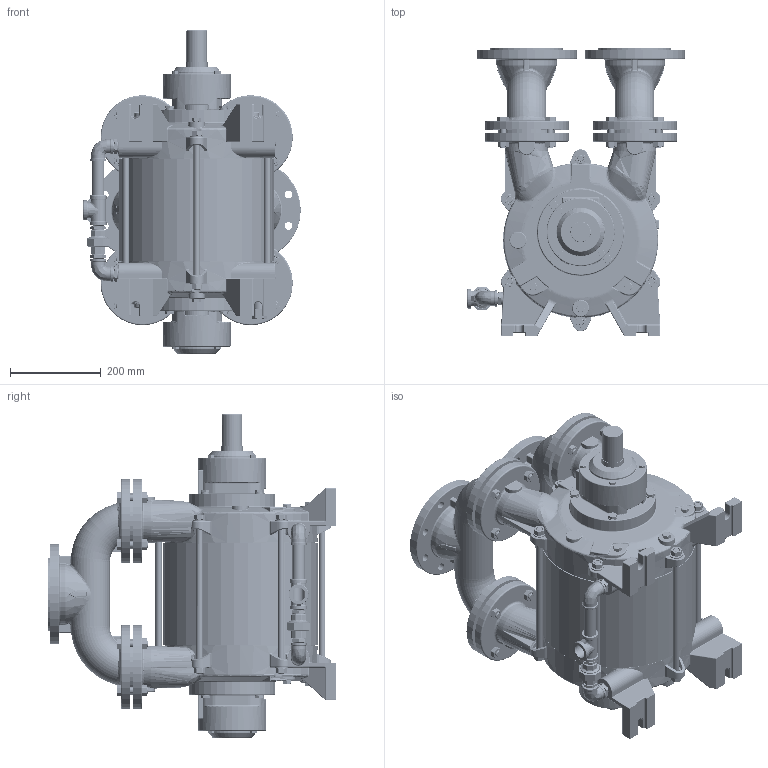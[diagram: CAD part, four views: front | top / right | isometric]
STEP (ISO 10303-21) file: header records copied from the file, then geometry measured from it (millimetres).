
FILE_DESCRIPTION (( 'STEP AP214' ), '1' );
FILE_NAME ('GMVT 275-220 MONTAJ.STEP', '2024-05-08T13:16:47', ( '' ), ( '' ), 'SwSTEP 2.0', 'SolidWorks 2024', '' );
FILE_SCHEMA (( 'AUTOMOTIVE_DESIGN' ));
Length unit declared in the file: millimetre
Products named in the file (1): GMVT 275-220 MONTAJ
Bounding box: 478.49 x 632 x 711.01 mm (x, y, z)
Volume: 50650640.8 mm3; surface area: 2617030.4 mm2
Topology: 68 solids, 100 shells, 5993 faces, 14532 edges, 8631 vertices
Faces by surface type: cylinder 1662, plane 1262, bspline 1135, cone 1070, torus 687, sphere 177
Entity records: 253698 total; most frequent: CARTESIAN_POINT 122445, ORIENTED_EDGE 28472, DIRECTION 26108, EDGE_CURVE 14236, AXIS2_PLACEMENT_3D 11059, VERTEX_POINT 8611, EDGE_LOOP 6377, CIRCLE 6200
